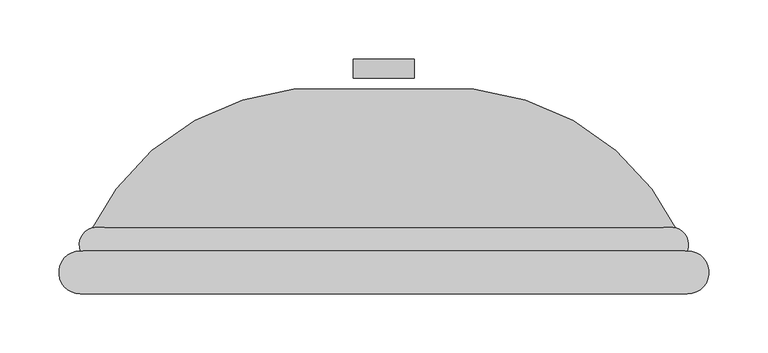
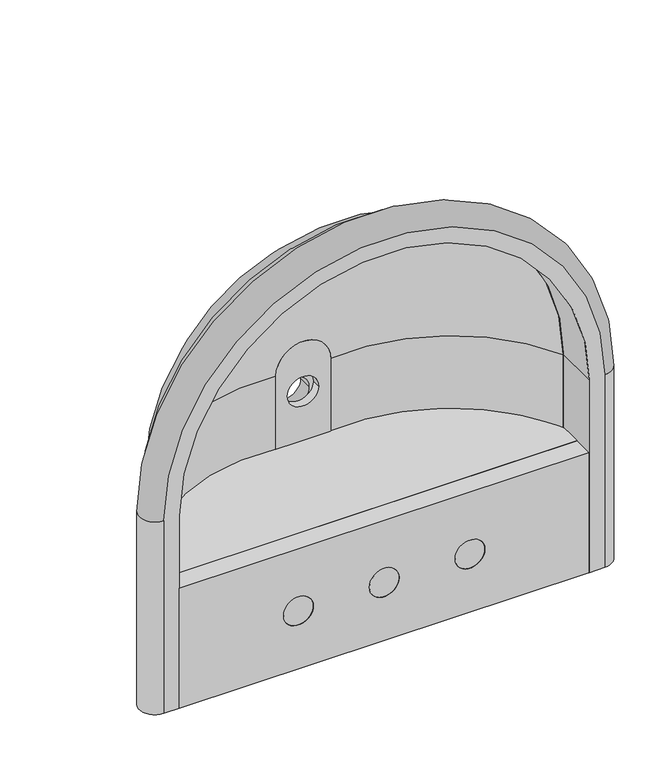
"""IFC4 building model written with IfcOpenShell, lengths in millimetres: flow terminal geometry, Deca_Lavatorio Belle Epoque_L.2_Coluna : Pia Banho."""

import ifcopenshell
import ifcopenshell.guid

model = None  # the IFC model being written
_history = None  # IfcOwnerHistory: only IFC2X3 demands one
_inside = {}  # id of a spatial element -> (the spatial element, [elements in it])
_under = {}  # id of a project, library or spatial element -> (it, [spatial elements below it])
_declared = {}  # id of a project -> (the project, [libraries it declares])
_typed = {}  # id of a type object -> (the type object, [elements of that type])
_made_of = {}  # id of a material, layer set ... -> (it, [elements and type objects made of it])


def new_model(schema):
    """Start an empty IFC model of exactly this schema.

    Asked for "IFC4X3", IfcOpenShell would pick the latest addendum, in which some entities
    have other attributes; the version numbers below select the first issue.
    IFC2X3 requires an IfcOwnerHistory on every rooted entity: one is made here for all.
    """
    global model, _history
    if schema == "IFC4X3":
        model = ifcopenshell.file(schema_version=(4, 3, 0, 0))
    else:
        model = ifcopenshell.file(schema=schema)
    _inside.clear()
    _under.clear()
    _declared.clear()
    _typed.clear()
    _made_of.clear()
    _history = None
    if model.schema == "IFC2X3":
        org = make("IfcOrganization", Name="unknown")
        user = make(
            "IfcPersonAndOrganization",
            ThePerson=make("IfcPerson", FamilyName="unknown"),
            TheOrganization=org,
        )
        app = make(
            "IfcApplication",
            ApplicationDeveloper=org,
            Version="unknown",
            ApplicationFullName="unknown",
            ApplicationIdentifier="unknown",
        )
        _history = make(
            "IfcOwnerHistory",
            OwningUser=user,
            OwningApplication=app,
            ChangeAction="ADDED",
            CreationDate=0,
        )
    return model


def make(cls, **values):
    """One entity of the class cls with the attributes given. An attribute that is None is left unset."""
    return model.create_entity(
        cls, **{name: value for name, value in values.items() if value is not None}
    )


def rooted(cls, **values):
    """An entity with a GlobalId (a new one), such as an element, a storey or a relation."""
    return make(cls, GlobalId=ifcopenshell.guid.new(), OwnerHistory=_history, **values)


def si_unit(unit_type, name, prefix=None):
    """IfcSIUnit, for example si_unit("LENGTHUNIT", "METRE", prefix="MILLI")."""
    return make("IfcSIUnit", UnitType=unit_type, Prefix=prefix, Name=name)


def assignment(units):
    """IfcUnitAssignment: the units of a project."""
    return None if units is None else make("IfcUnitAssignment", Units=units)


def point(xyz):
    """IfcCartesianPoint."""
    return None if xyz is None else make("IfcCartesianPoint", Coordinates=xyz)


def direction(xyz):
    """IfcDirection."""
    return None if xyz is None else make("IfcDirection", DirectionRatios=xyz)


def frame(location, z_axis=None, x_axis=None):
    """IfcAxis2Placement3D, a coordinate frame: its origin and axes. An axis left out is left unset."""
    return make(
        "IfcAxis2Placement3D",
        Location=point(location),
        Axis=direction(z_axis),
        RefDirection=direction(x_axis),
    )


def frame_2d(location, x_axis=None):
    """IfcAxis2Placement2D, a coordinate frame in the plane: its origin and x axis."""
    return make(
        "IfcAxis2Placement2D", Location=point(location), RefDirection=direction(x_axis)
    )


def origin():
    """The frame at (0, 0, 0) with its axes left unset."""
    return frame((0.0, 0.0, 0.0))


def place(relative_to, where):
    """IfcLocalPlacement: puts the frame where relative to a parent placement (None: the world)."""
    return make(
        "IfcLocalPlacement", PlacementRelTo=relative_to, RelativePlacement=where
    )


def context(
    kind, dimensions, precision=None, world=None, true_north=None, identifier=None
):
    """IfcGeometricRepresentationContext, for example the 3D "Model" context."""
    return make(
        "IfcGeometricRepresentationContext",
        ContextIdentifier=identifier,
        ContextType=kind,
        CoordinateSpaceDimension=dimensions,
        Precision=precision,
        WorldCoordinateSystem=world,
        TrueNorth=true_north,
    )


def project(units=None, contexts=None):
    """IfcProject with its units and contexts."""
    return rooted(
        "IfcProject",
        Name="project",
        RepresentationContexts=contexts,
        UnitsInContext=assignment(units),
    )


def spatial(cls, under=None, at=None, **own):
    """A site, building, storey or space (cls), placed at a placement, below another one or the project."""
    s = rooted(cls, ObjectPlacement=at, **own)
    if under is not None:
        _under.setdefault(under.id(), (under, []))[1].append(s)
    return s


def polyline(points):
    """IfcPolyline through the points."""
    return make("IfcPolyline", Points=[point(p) for p in points])


def circle_curve(where, radius):
    """IfcCircle in the frame where."""
    return make("IfcCircle", Position=where, Radius=radius)


def ellipse_curve(where, semi_axis1, semi_axis2):
    """IfcEllipse in the frame where."""
    return make(
        "IfcEllipse", Position=where, SemiAxis1=semi_axis1, SemiAxis2=semi_axis2
    )


def trimmed(basis, trim1, trim2, sense, master):
    """IfcTrimmedCurve: the piece of a basis curve between two trims."""
    return make(
        "IfcTrimmedCurve",
        BasisCurve=basis,
        Trim1=trim1,
        Trim2=trim2,
        SenseAgreement=sense,
        MasterRepresentation=master,
    )


def segment(curve, same_sense, transition):
    """IfcCompositeCurveSegment."""
    return make(
        "IfcCompositeCurveSegment",
        Transition=transition,
        SameSense=same_sense,
        ParentCurve=curve,
    )


def composite_curve(segments, self_intersect=None):
    """IfcCompositeCurve: segments joined end to end."""
    return make("IfcCompositeCurve", Segments=segments, SelfIntersect=self_intersect)


def outline(outer, holes=None, kind="AREA"):
    """IfcArbitraryClosedProfileDef: a profile drawn as a closed curve; with holes, ...WithVoids."""
    if holes is None:
        return make("IfcArbitraryClosedProfileDef", ProfileType=kind, OuterCurve=outer)
    return make(
        "IfcArbitraryProfileDefWithVoids",
        ProfileType=kind,
        OuterCurve=outer,
        InnerCurves=holes,
    )


def extrude(swept, where, along, depth):
    """IfcExtrudedAreaSolid: the profile swept, set in the frame where, extruded along a direction by depth."""
    return make(
        "IfcExtrudedAreaSolid",
        SweptArea=swept,
        Position=where,
        ExtrudedDirection=direction(along),
        Depth=depth,
    )


def shape(context_of_items, identifier, shape_type, items):
    """IfcShapeRepresentation: the items that make up one representation, for example the "Body"."""
    return make(
        "IfcShapeRepresentation",
        ContextOfItems=context_of_items,
        RepresentationIdentifier=identifier,
        RepresentationType=shape_type,
        Items=items,
    )


def source(mapping_origin, context_of_items, identifier, shape_type, items):
    """IfcRepresentationMap: a shape defined once, which mapped items show again and again."""
    return make(
        "IfcRepresentationMap",
        MappingOrigin=mapping_origin,
        MappedRepresentation=shape(context_of_items, identifier, shape_type, items),
    )


def transform(
    local_origin,
    x_axis=None,
    y_axis=None,
    z_axis=None,
    scale=None,
    scale2=None,
    scale3=None,
    uniform=True,
):
    """IfcCartesianTransformationOperator3D, or its non-uniform kind. x_axis, y_axis, z_axis: its Axis1, 2, 3."""
    if uniform:
        return make(
            "IfcCartesianTransformationOperator3D",
            Axis1=direction(x_axis),
            Axis2=direction(y_axis),
            LocalOrigin=point(local_origin),
            Scale=scale,
            Axis3=direction(z_axis),
        )
    return make(
        "IfcCartesianTransformationOperator3DnonUniform",
        Axis1=direction(x_axis),
        Axis2=direction(y_axis),
        LocalOrigin=point(local_origin),
        Scale=scale,
        Axis3=direction(z_axis),
        Scale2=scale2,
        Scale3=scale3,
    )


def mapped(mapping_source, mapping_target):
    """IfcMappedItem: shows the shape of a source again, moved by a transform."""
    return make(
        "IfcMappedItem", MappingSource=mapping_source, MappingTarget=mapping_target
    )


def made_of(thing, what):
    """Note that an element or type object is made of a material, layer set ...; save() writes the relation."""
    if what is not None:
        _made_of.setdefault(what.id(), (what, []))[1].append(thing)
    return thing


def element(
    cls,
    number,
    at=None,
    inside=None,
    cuts=None,
    type_object=None,
    material=None,
    context=None,
    identifier="Body",
    shape_type=None,
    held_by="IfcProductDefinitionShape",
    body=None,
    shapes=None,
    **own,
):
    """One element of the class cls, such as IfcWall. Its Tag is "e" and its number.

    at: its placement. inside: the storey or other place that contains it. cuts: it is an
    opening in that element (IfcRelVoidsElement). A single representation is given by context,
    identifier, shape_type and body (its items); several are given by shapes. held_by: the class
    of the entity that holds the representations. save() writes the other relations.
    """
    e = rooted(cls, Tag="e%d" % number, ObjectPlacement=at, **own)
    if body is not None:
        shapes = [shape(context, identifier, shape_type, body)]
    if shapes is not None:
        e.Representation = make(held_by, Representations=shapes)
    if inside is not None:
        _inside.setdefault(inside.id(), (inside, []))[1].append(e)
    if cuts is not None:
        rooted(
            "IfcRelVoidsElement", RelatingBuildingElement=cuts, RelatedOpeningElement=e
        )
    if type_object is not None:
        _typed.setdefault(type_object.id(), (type_object, []))[1].append(e)
    return made_of(e, material)


def aggregate(whole, parts):
    """IfcRelAggregates: a whole, such as a stair, and the parts it consists of."""
    return rooted("IfcRelAggregates", RelatingObject=whole, RelatedObjects=parts)


def save(model, path):
    """Write the relations noted so far, then the file.

    IfcRelAggregates (storeys below a building ...), IfcRelContainedInSpatialStructure (elements
    in a storey), IfcRelDefinesByType, IfcRelAssociatesMaterial and IfcRelDeclares: one each for
    every whole, place, type object, material and project.
    """
    for whole, parts in _under.values():
        aggregate(whole, parts)
    for where, things in _inside.values():
        rooted(
            "IfcRelContainedInSpatialStructure",
            RelatedElements=things,
            RelatingStructure=where,
        )
    for kind, things in _typed.values():
        rooted("IfcRelDefinesByType", RelatedObjects=things, RelatingType=kind)
    for what, things in _made_of.values():
        rooted("IfcRelAssociatesMaterial", RelatedObjects=things, RelatingMaterial=what)
    for by, libraries in _declared.values():
        rooted("IfcRelDeclares", RelatingContext=by, RelatedDefinitions=libraries)
    model.write(path)


def plane_surface(at):
    """IfcPlane: the flat surface through the origin of the frame at, square to its z axis."""
    return make("IfcPlane", Position=at)


def cylinder_surface(at, radius):
    """IfcCylindricalSurface: all points at the distance radius from the z axis of the frame at."""
    return make("IfcCylindricalSurface", Position=at, Radius=radius)


def revolved_surface(curve, axis_point, axis_direction):
    """IfcSurfaceOfRevolution: the curve turned about the line through axis_point along axis_direction."""
    return make(
        "IfcSurfaceOfRevolution",
        SweptCurve=make("IfcArbitraryOpenProfileDef", ProfileType="CURVE", Curve=curve),
        AxisPosition=make("IfcAxis1Placement", Location=point(axis_point), Axis=direction(axis_direction)),
    )


def advanced_brep(points, edges, surfaces, faces):
    """IfcAdvancedBrep: a solid bounded by faces that lie on surfaces and meet in shared edges.

    An edge is (start, end): straight between two places in points (the first is 0);
    or (start, end, curve); or (start, end, curve, False) where it runs against its curve.
    A face is (place in surfaces, loops), or (place, loops, False) where it looks against
    its surface's normal. A loop lists edges by number (the first is 1), with a minus sign
    where the edge is run from its end to its start. The first loop is the outer one.
    """
    corners = [point(p) for p in points]
    vertices = [make("IfcVertexPoint", VertexGeometry=c) for c in corners]
    made = []
    for start, end, *more in edges:
        made.append(
            make(
                "IfcEdgeCurve",
                EdgeStart=vertices[start],
                EdgeEnd=vertices[end],
                EdgeGeometry=more[0] if more else make("IfcPolyline", Points=[corners[start], corners[end]]),
                SameSense=more[1] if len(more) > 1 else True,
            )
        )
    hull = []
    for where, loops, *sense in faces:
        bounds = []
        for j, loop in enumerate(loops):
            ring = [make("IfcOrientedEdge", EdgeElement=made[abs(k) - 1], Orientation=k > 0) for k in loop]
            bounds.append(
                make(
                    "IfcFaceOuterBound" if j == 0 else "IfcFaceBound",
                    Bound=make("IfcEdgeLoop", EdgeList=ring),
                    Orientation=True,
                )
            )
        hull.append(make("IfcAdvancedFace", Bounds=bounds, FaceSurface=surfaces[where], SameSense=sense[0] if sense else True))
    return make("IfcAdvancedBrep", Outer=make("IfcClosedShell", CfsFaces=hull))


def flow_terminal_9a69dd1e(model_context):
    return source(origin(), model_context, "Body", "SolidModel", [
        extrude(outline(composite_curve([segment(polyline([(0.0, -31.8383106), (0.0, 32.1836787), (237.4079593, 32.1836787)]), True, "CONTINUOUS"), segment(trimmed(circle_curve(frame_2d((237.4079593, 0.172684)), 32.0109946), [point((237.4079593, 32.1836787))], [point((237.4079593, -31.8383106))], False, "CARTESIAN"), True, "CONTINUOUS"), segment(polyline([(237.4079593, -31.8383106), (0.0, -31.8383106)]), True, "CONTINUOUS")], self_intersect=False), holes=[composite_curve([segment(trimmed(circle_curve(frame_2d((208.1351035, -0.15625)), 18.1370047), [point((208.1351035, 17.9807547))], [point((208.1351035, -18.2932547))], True, "CARTESIAN"), True, "CONTINUOUS"), segment(trimmed(circle_curve(frame_2d((208.1351035, -0.15625)), 18.1370047), [point((208.1351035, -18.2932547))], [point((208.1351035, 17.9807547))], True, "CARTESIAN"), True, "CONTINUOUS")], self_intersect=False)]), frame((0.0, 145.5969824, 0.0), z_axis=(0.0, 1.0, 0.0), x_axis=(0.0, 0.0, 1.0)), (0.0, 0.0, 1.0), 10.0566519),
        extrude(outline(composite_curve([segment(polyline([(-31.8383106, 145.5969824), (32.1836787, 145.5969824)]), True, "CONTINUOUS"), segment(trimmed(circle_curve(frame_2d((54.5959398, -59.6905373)), 206.5073248), [point((32.1836787, 145.5969824))], [point((250.2264198, 6.4456139))], False, "CARTESIAN"), True, "CONTINUOUS"), segment(polyline([(250.2264198, 6.4456139), (-249.8810518, 6.4456139)]), True, "CONTINUOUS"), segment(trimmed(circle_curve(frame_2d((-54.2505718, -59.6905373)), 206.5073248), [point((-249.8810518, 6.4456139))], [point((-31.8383106, 145.5969824))], False, "CARTESIAN"), True, "CONTINUOUS")], self_intersect=False)), frame((0.0, 0.0, 133.7714132), z_axis=(0.0, 0.0, 1.0), x_axis=(1.0, 0.0, 0.0)), (0.0, 0.0, 1.0), 14.0347051),
        extrude(outline(polyline([(0.0, 238.8226147), (147.8061183, 238.8226147), (147.8061183, -238.6483189), (0.0, -238.6483189), (0.0, 238.8226147)]), holes=[composite_curve([segment(trimmed(circle_curve(frame_2d((71.34, -99.8252653)), 17.4), [point((71.34, -117.2252653))], [point((71.34, -82.4252653))], True, "CARTESIAN"), True, "CONTINUOUS"), segment(trimmed(circle_curve(frame_2d((71.34, -99.8252653)), 17.4), [point((71.34, -82.4252653))], [point((71.34, -117.2252653))], True, "CARTESIAN"), True, "CONTINUOUS")], self_intersect=False), composite_curve([segment(trimmed(circle_curve(frame_2d((71.34, 0.1747347)), 17.4959), [point((71.34, -17.3211653))], [point((71.34, 17.6706347))], True, "CARTESIAN"), True, "CONTINUOUS"), segment(trimmed(circle_curve(frame_2d((71.34, 0.1747347)), 17.4959), [point((71.34, 17.6706347))], [point((71.34, -17.3211653))], True, "CARTESIAN"), True, "CONTINUOUS")], self_intersect=False), composite_curve([segment(trimmed(circle_curve(frame_2d((71.34, 100.1747347)), 17.4), [point((71.34, 82.7747347))], [point((71.34, 117.5747347))], True, "CARTESIAN"), True, "CONTINUOUS"), segment(trimmed(circle_curve(frame_2d((71.34, 100.1747347)), 17.4), [point((71.34, 117.5747347))], [point((71.34, 82.7747347))], True, "CARTESIAN"), True, "CONTINUOUS")], self_intersect=False)]), frame((0.0, -17.8247214, 0.0), z_axis=(0.0, 1.0, 0.0), x_axis=(0.0, 0.0, 1.0)), (0.0, 0.0, 1.0), 24.2703353),
        advanced_brep(
        [(-31.8383106, 155.6536343, 0.0), (-31.8383106, 145.5969824, 0.0), (-238.4772467, 33.6143792, 0.0), (-249.6210256, 33.6143792, 0.0), (-249.6210256, 33.6143792, 237.4079593), (-31.8383106, 155.6536343, 237.4079593), (-238.4772467, 33.6143792, 237.4079593), (238.8226147, 33.6143792, 237.4079593), (238.8226147, 33.6143792, 0.0), (249.9663937, 33.6143792, 0.0), (249.9663937, 33.6143792, 237.4079593), (-31.8383106, 145.5969824, 237.4079593), (32.1836787, 155.6536343, 237.4079593), (32.1836787, 145.5969824, 237.4079593), (32.1836787, 155.6536343, 0.0), (32.1836787, 145.5969824, 0.0)],
        [
            (0, 1),
            (1, 2, circle_curve(frame((-54.2505718, -59.6905373, 0.0), z_axis=(0.0, 0.0, 1.0), x_axis=(0.0, 1.0, 0.0)), 206.5073248)),
            (2, 3),
            (3, 0, circle_curve(frame((-54.2505718, -59.6905373, 0.0), z_axis=(0.0, 0.0, -1.0), x_axis=(0.0, 1.0, 0.0)), 216.5073248)),
            (3, 4),
            (4, 5, circle_curve(frame((-54.2505718, -59.6905373, 237.4079593), z_axis=(0.0, 0.0, -1.0), x_axis=(0.0, 1.0, 0.0)), 216.5073248)),
            (5, 0),
            (2, 6),
            (6, 7, circle_curve(frame((0.172684, 33.6143792, 237.4079593), z_axis=(0.0, 1.0, 0.0), x_axis=(-1.0, 0.0, 0.0)), 238.6499307)),
            (7, 8),
            (8, 9),
            (9, 10),
            (10, 4, circle_curve(frame((0.172684, 33.6143792, 237.4079593), z_axis=(0.0, -1.0, 0.0), x_axis=(-1.0, 0.0, 0.0)), 249.7937097)),
            (1, 11),
            (11, 6, circle_curve(frame((-54.2505718, -59.6905373, 237.4079593), z_axis=(0.0, 0.0, 1.0), x_axis=(0.0, 1.0, 0.0)), 206.5073248)),
            (5, 11),
            (10, 12, circle_curve(frame((54.5959398, -59.6905373, 237.4079593), z_axis=(0.0, 0.0, 1.0), x_axis=(0.0, 1.0, 0.0)), 216.5073248)),
            (12, 5, circle_curve(frame((0.172684, 155.6536343, 237.4079593), z_axis=(0.0, -1.0, 0.0), x_axis=(-1.0, 0.0, 0.0)), 32.0109946)),
            (13, 7, circle_curve(frame((54.5959398, -59.6905373, 237.4079593), z_axis=(0.0, 0.0, -1.0), x_axis=(0.0, 1.0, 0.0)), 206.5073248)),
            (11, 13, circle_curve(frame((0.172684, 145.5969824, 237.4079593), z_axis=(0.0, 1.0, 0.0), x_axis=(-1.0, 0.0, 0.0)), 32.0109946)),
            (12, 13),
            (14, 9, circle_curve(frame((54.5959398, -59.6905373, 0.0), z_axis=(0.0, 0.0, -1.0), x_axis=(0.0, 1.0, 0.0)), 216.5073248)),
            (8, 15, circle_curve(frame((54.5959398, -59.6905373, 0.0), z_axis=(0.0, 0.0, 1.0), x_axis=(0.0, 1.0, 0.0)), 206.5073248)),
            (15, 14),
            (14, 12),
            (13, 15),
        ],
        [
            plane_surface(frame((-247.3983189, 6.4456139, 0.0), z_axis=(0.0, 0.0, -1.0), x_axis=(0.0, -1.0, 0.0))),
            cylinder_surface(frame((-54.2505718, -59.6905373, 0.0), z_axis=(0.0, 0.0, -1.0), x_axis=(0.0, 1.0, 0.0)), 216.5073248),
            plane_surface(frame((-249.6210256, 33.6143792, 0.0), z_axis=(0.0, -1.0, 0.0), x_axis=(0.0, 0.0, 1.0))),
            revolved_surface(polyline([(-54.2505718, 146.81678749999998, 237.4079593), (-54.2505718, 146.81678749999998, 0.0)]), (-54.2505718, -59.6905373, 0.0), (0.0, 0.0, 1.0)),
            plane_surface(frame((-31.8383106, 145.5969824, 0.0), z_axis=(1.0, 0.0, 0.0), x_axis=(0.0, 0.0, 1.0))),
            revolved_surface(trimmed(ellipse_curve(frame((-54.2505718, -59.6905373, 237.4079593), z_axis=(0.0, 0.0, 1.0), x_axis=(0.0, 1.0, 0.0)), 216.5073248, 216.5073248), [point((-31.8383106, 155.6536343, 237.4079593))], [point((-249.6210256, 33.6143792, 237.4079593))], True, "CARTESIAN"), (0.172684, 6.4456139, 237.4079593), (0.0, -1.0, 0.0)),
            revolved_surface(trimmed(ellipse_curve(frame((-54.2505718, -59.6905373, 237.4079593), z_axis=(0.0, 0.0, -1.0), x_axis=(0.0, 1.0, 0.0)), 206.5073248, 206.5073248), [point((-238.4772467, 33.6143792, 237.4079593))], [point((-31.8383106, 145.5969824, 237.4079593))], True, "CARTESIAN"), (0.172684, 6.4456139, 237.4079593), (0.0, -1.0, 0.0)),
            revolved_surface(polyline([(-31.838310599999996, 145.5969824, 237.4079593), (-31.838310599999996, 155.6536343, 237.4079593)]), (0.172684, 6.4456139, 237.4079593), (0.0, -1.0, 0.0)),
            plane_surface(frame((247.7436869, 6.4456139, 0.0), z_axis=(0.0, 0.0, -1.0), x_axis=(0.0, -1.0, 0.0))),
            cylinder_surface(frame((54.5959398, -59.6905373, 237.4079593), z_axis=(0.0, 0.0, 1.0), x_axis=(0.0, 1.0, 0.0)), 216.5073248),
            revolved_surface(polyline([(54.5959398, 146.81678749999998, 0.0), (54.5959398, 146.81678749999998, 237.4079593)]), (54.5959398, -59.6905373, 237.4079593), (0.0, 0.0, -1.0)),
            plane_surface(frame((32.1836787, 145.5969824, 237.4079593), z_axis=(-1.0, 0.0, 0.0), x_axis=(0.0, 0.0, -1.0))),
        ],
        [
            (0, [[1, 2, 3, 4]]),
            (1, [[5, 6, 7, -4]]),
            (2, [[8, 9, 10, 11, 12, 13, -5, -3]]),
            (3, [[14, 15, -8, -2]]),
            (4, [[-7, 16, -14, -1]]),
            (5, [[17, 18, -6, -13]]),
            (6, [[19, -9, -15, 20]]),
            (7, [[21, -20, -16, -18]]),
            (8, [[22, -11, 23, 24]]),
            (9, [[-12, -22, 25, -17]]),
            (10, [[26, -23, -10, -19]]),
            (11, [[-25, -24, -26, -21]]),
        ],
    ),
        advanced_brep(
        [(-256.8921894, 18.6672977, 0.0), (-238.6483189, 38.378303, 0.0), (-238.6483189, -17.8247214, 0.0), (-256.8921894, -17.8247214, 0.0), (257.2375574, 18.6672977, 0.0), (257.2375574, -17.8247214, 0.0), (238.9936869, -17.8247214, 0.0), (238.9936869, 38.378303, 0.0), (-256.8921894, -17.8247214, 237.4079593), (-256.8921894, 18.6672977, 237.4079593), (-238.6483189, -17.8247214, 237.4079593), (238.9936869, -17.8247214, 237.4079593), (257.2375574, -17.8247214, 237.4079593), (-238.6483189, 38.378303, 237.4079593), (257.2375574, 18.6672977, 237.4079593), (238.9936869, 38.378303, 237.4079593)],
        [
            (0, 1, circle_curve(frame((-242.6160924, 23.7522746, 0.0), z_axis=(0.0, 0.0, -1.0), x_axis=(0.0, 1.0, 0.0)), 15.1546671)),
            (1, 2),
            (2, 3),
            (3, 0, circle_curve(frame((-256.8921894, 0.4212881, 0.0), z_axis=(0.0, 0.0, -1.0), x_axis=(0.0, 1.0, 0.0)), 18.2460096)),
            (4, 5, circle_curve(frame((257.2375574, 0.4212881, 0.0), z_axis=(0.0, 0.0, -1.0), x_axis=(0.0, 1.0, 0.0)), 18.2460096)),
            (5, 6),
            (6, 7),
            (7, 4, circle_curve(frame((242.9614604, 23.7522746, 0.0), z_axis=(0.0, 0.0, -1.0), x_axis=(0.0, 1.0, 0.0)), 15.1546671)),
            (3, 8),
            (8, 9, circle_curve(frame((-256.8921894, 0.4212881, 237.4079593), z_axis=(0.0, 0.0, -1.0), x_axis=(0.0, 1.0, 0.0)), 18.2460096)),
            (9, 0),
            (2, 10),
            (10, 11, circle_curve(frame((0.172684, -17.8247214, 237.4079593), z_axis=(0.0, 1.0, 0.0), x_axis=(-1.0, 0.0, 0.0)), 238.8210029)),
            (11, 6),
            (5, 12),
            (12, 8, circle_curve(frame((0.172684, -17.8247214, 237.4079593), z_axis=(0.0, -1.0, 0.0), x_axis=(-1.0, 0.0, 0.0)), 257.0648734)),
            (1, 13),
            (13, 10),
            (9, 13, circle_curve(frame((-242.6160924, 23.7522746, 237.4079593), z_axis=(0.0, 0.0, -1.0), x_axis=(0.0, 1.0, 0.0)), 15.1546671)),
            (12, 14, circle_curve(frame((257.2375574, 0.4212881, 237.4079593), z_axis=(0.0, 0.0, 1.0), x_axis=(0.0, 1.0, 0.0)), 18.2460096)),
            (14, 9, circle_curve(frame((0.172684, 18.6672977, 237.4079593), z_axis=(0.0, -1.0, 0.0), x_axis=(-1.0, 0.0, 0.0)), 257.0648734)),
            (15, 11),
            (13, 15, circle_curve(frame((0.172684, 38.378303, 237.4079593), z_axis=(0.0, 1.0, 0.0), x_axis=(-1.0, 0.0, 0.0)), 238.8210029)),
            (14, 15, circle_curve(frame((242.9614604, 23.7522746, 237.4079593), z_axis=(0.0, 0.0, 1.0), x_axis=(0.0, 1.0, 0.0)), 15.1546671)),
            (4, 14),
            (15, 7),
        ],
        [
            plane_surface(frame((-274.4418821, 6.4456139, 0.0), z_axis=(0.0, 0.0, -1.0), x_axis=(0.0, -1.0, 0.0))),
            plane_surface(frame((274.7872501, 6.4456139, 0.0), z_axis=(0.0, 0.0, -1.0), x_axis=(0.0, -1.0, 0.0))),
            cylinder_surface(frame((-256.8921894, 0.4212881, 0.0), z_axis=(0.0, 0.0, -1.0), x_axis=(0.0, 1.0, 0.0)), 18.2460096),
            plane_surface(frame((-256.8921894, -17.8247214, 0.0), z_axis=(0.0, -1.0, 0.0), x_axis=(0.0, 0.0, 1.0))),
            plane_surface(frame((-238.6483189, -17.8247214, 0.0), z_axis=(1.0, 0.0, 0.0), x_axis=(0.0, 0.0, 1.0))),
            cylinder_surface(frame((-242.6160924, 23.7522746, 0.0), z_axis=(0.0, 0.0, -1.0), x_axis=(0.0, 1.0, 0.0)), 15.1546671),
            revolved_surface(trimmed(ellipse_curve(frame((-256.8921894, 0.4212881, 237.4079593), z_axis=(0.0, 0.0, 1.0), x_axis=(0.0, 1.0, 0.0)), 18.2460096, 18.2460096), [point((-256.8921894, 18.6672977, 237.4079593))], [point((-256.8921894, -17.8247214, 237.4079593))], True, "CARTESIAN"), (0.172684, 6.4456139, 237.4079593), (0.0, -1.0, 0.0)),
            revolved_surface(polyline([(-238.6483189, -17.8247214, 237.4079593), (-238.6483189, 38.378303, 237.4079593)]), (0.172684, 6.4456139, 237.4079593), (0.0, -1.0, 0.0)),
            revolved_surface(trimmed(ellipse_curve(frame((-242.6160924, 23.7522746, 237.4079593), z_axis=(0.0, 0.0, 1.0), x_axis=(0.0, 1.0, 0.0)), 15.1546671, 15.1546671), [point((-238.6483189, 38.378303, 237.4079593))], [point((-256.8921894, 18.6672977, 237.4079593))], True, "CARTESIAN"), (0.172684, 6.4456139, 237.4079593), (0.0, -1.0, 0.0)),
            cylinder_surface(frame((257.2375574, 0.4212881, 237.4079593), z_axis=(0.0, 0.0, 1.0), x_axis=(0.0, 1.0, 0.0)), 18.2460096),
            plane_surface(frame((238.9936869, -17.8247214, 237.4079593), z_axis=(-1.0, 0.0, 0.0), x_axis=(0.0, 0.0, -1.0))),
            cylinder_surface(frame((242.9614604, 23.7522746, 237.4079593), z_axis=(0.0, 0.0, 1.0), x_axis=(0.0, 1.0, 0.0)), 15.1546671),
        ],
        [
            (0, [[1, 2, 3, 4]]),
            (1, [[5, 6, 7, 8]]),
            (2, [[9, 10, 11, -4]]),
            (3, [[12, 13, 14, -6, 15, 16, -9, -3]]),
            (4, [[17, 18, -12, -2]]),
            (5, [[-11, 19, -17, -1]]),
            (6, [[20, 21, -10, -16]]),
            (7, [[22, -13, -18, 23]]),
            (8, [[24, -23, -19, -21]]),
            (9, [[-15, -5, 25, -20]]),
            (10, [[26, -7, -14, -22]]),
            (11, [[-25, -8, -26, -24]]),
        ],
    ),
        extrude(outline(composite_curve([segment(trimmed(circle_curve(frame_2d((195.3061183, 0.0)), 25.6868702), [point((195.3061183, -25.6868702))], [point((195.3061183, 25.6868702))], False, "CARTESIAN"), True, "CONTINUOUS"), segment(trimmed(circle_curve(frame_2d((195.3061183, 0.0)), 25.6868702), [point((195.3061183, 25.6868702))], [point((195.3061183, -25.6868702))], False, "CARTESIAN"), True, "CONTINUOUS")], self_intersect=False), holes=[composite_curve([segment(trimmed(circle_curve(frame_2d((195.3061183, 0.0)), 18.1370047), [point((195.3061183, -18.1370047))], [point((195.3061183, 18.1370047))], True, "CARTESIAN"), True, "CONTINUOUS"), segment(trimmed(circle_curve(frame_2d((195.3061183, 0.0)), 18.1370047), [point((195.3061183, 18.1370047))], [point((195.3061183, -18.1370047))], True, "CARTESIAN"), True, "CONTINUOUS")], self_intersect=False)]), frame((0.0, 165.1981252, 0.0), z_axis=(0.0, 1.0, 0.0), x_axis=(0.0, 0.0, 1.0)), (0.0, 0.0, 1.0), 16.2474886),
        extrude(outline(composite_curve([segment(trimmed(circle_curve(frame_2d((71.34, -99.8252653)), 17.4), [point((71.34, -117.2252653))], [point((71.34, -82.4252653))], False, "CARTESIAN"), True, "CONTINUOUS"), segment(trimmed(circle_curve(frame_2d((71.34, -99.8252653)), 17.4), [point((71.34, -82.4252653))], [point((71.34, -117.2252653))], False, "CARTESIAN"), True, "CONTINUOUS")], self_intersect=False)), frame((0.0, -17.8247214, 0.0), z_axis=(0.0, 1.0, 0.0), x_axis=(0.0, 0.0, 1.0)), (0.0, 0.0, 1.0), 24.2703353),
        extrude(outline(composite_curve([segment(trimmed(circle_curve(frame_2d((71.34, 100.1747347)), 17.4), [point((71.34, 82.7747347))], [point((71.34, 117.5747347))], False, "CARTESIAN"), True, "CONTINUOUS"), segment(trimmed(circle_curve(frame_2d((71.34, 100.1747347)), 17.4), [point((71.34, 117.5747347))], [point((71.34, 82.7747347))], False, "CARTESIAN"), True, "CONTINUOUS")], self_intersect=False)), frame((0.0, -17.8247214, 0.0), z_axis=(0.0, 1.0, 0.0), x_axis=(0.0, 0.0, 1.0)), (0.0, 0.0, 1.0), 24.2703353),
        extrude(outline(composite_curve([segment(trimmed(circle_curve(frame_2d((71.34, 0.1747347)), 17.4959), [point((71.34, -17.3211653))], [point((71.34, 17.6706347))], False, "CARTESIAN"), True, "CONTINUOUS"), segment(trimmed(circle_curve(frame_2d((71.34, 0.1747347)), 17.4959), [point((71.34, 17.6706347))], [point((71.34, -17.3211653))], False, "CARTESIAN"), True, "CONTINUOUS")], self_intersect=False)), frame((0.0, -17.8247214, 0.0), z_axis=(0.0, 1.0, 0.0), x_axis=(0.0, 0.0, 1.0)), (0.0, 0.0, 1.0), 24.2703353),
    ])


if __name__ == "__main__":
    model = new_model("IFC4")
    model_context = context("Model", 3, world=origin())
    ifc_project = project(units=[si_unit("LENGTHUNIT", "METRE", prefix="MILLI")], contexts=[model_context])
    site = spatial("IfcSite", under=ifc_project)
    building = spatial("IfcBuilding", under=site)
    placement = place(None, origin())
    flow_terminal_shape = flow_terminal_9a69dd1e(model_context)
    element("IfcFlowTerminal", 1, ObjectType="Deca_Lavatorio Belle Epoque_L.2_Coluna : Pia Banho", at=placement, inside=building, context=model_context, shape_type="MappedRepresentation", body=[
        mapped(flow_terminal_shape, transform((0.0, 0.0, 0.0), x_axis=(1.0, 0.0, 0.0), y_axis=(0.0, 1.0, 0.0), z_axis=(0.0, 0.0, 1.0))),
    ])
    save(model, "model.ifc")
